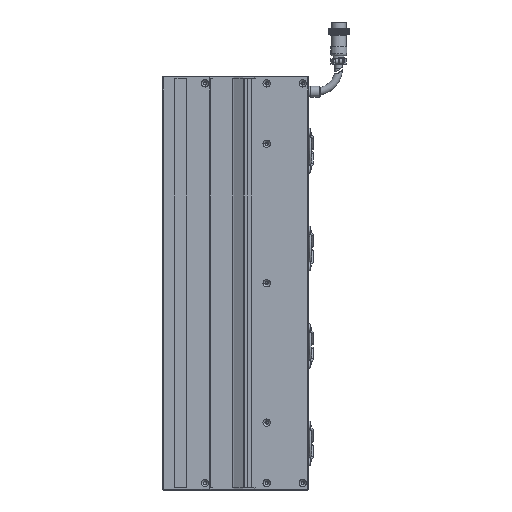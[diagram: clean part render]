
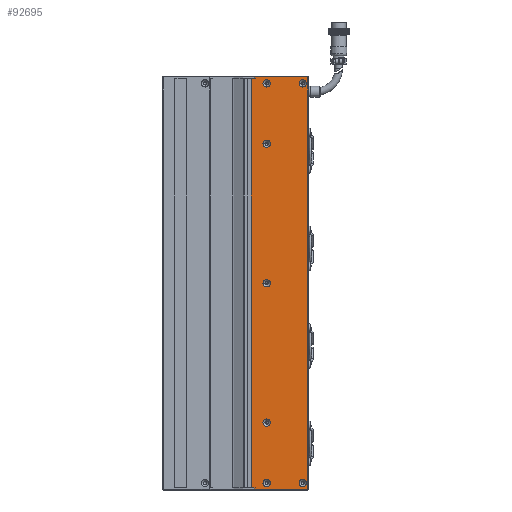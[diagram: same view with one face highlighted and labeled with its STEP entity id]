
A CAD part, left-side view. The second image highlights one B-rep face of the part: STEP entity #92695.
In plain terms, the highlighted planar face has unit normal (-1, 0, 0).
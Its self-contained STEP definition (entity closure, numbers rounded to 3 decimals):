
#2255 = CARTESIAN_POINT ( 'NONE',  ( -24.998, -36.5, -172. ) ) ;
#2270 = DIRECTION ( 'NONE',  ( 0., 0., 1. ) ) ;
#3178 = LINE ( 'NONE', #31155, #110988 ) ;
#6979 = CARTESIAN_POINT ( 'NONE',  ( -24.998, -36.5, -168.85 ) ) ;
#9164 = CARTESIAN_POINT ( 'NONE',  ( -24.998, -26.5, 177.5 ) ) ;
#9571 = CARTESIAN_POINT ( 'NONE',  ( -24.998, -36.5, 0. ) ) ;
#9720 = EDGE_CURVE ( 'NONE', #17073, #17073, #95151, .T. ) ;
#10095 = CARTESIAN_POINT ( 'NONE',  ( -24.998, -36.5, 3.15 ) ) ;
#11625 = PLANE ( 'NONE',  #58202 ) ;
#12060 = CIRCLE ( 'NONE', #110497, 3.15 ) ;
#13359 = EDGE_CURVE ( 'NONE', #88653, #72051, #96346, .T. ) ;
#14248 = EDGE_LOOP ( 'NONE', ( #41286, #32328, #114401, #80128, #85140, #24012, #80623, #60137 ) ) ;
#15383 = CARTESIAN_POINT ( 'NONE',  ( -24.998, -72., 177.5 ) ) ;
#15790 = ORIENTED_EDGE ( 'NONE', *, *, #9720, .F. ) ;
#15848 = DIRECTION ( 'NONE',  ( 0., 0., 1. ) ) ;
#16031 = CARTESIAN_POINT ( 'NONE',  ( -24.998, -26.5, 169. ) ) ;
#16943 = FACE_OUTER_BOUND ( 'NONE', #14248, .T. ) ;
#17073 = VERTEX_POINT ( 'NONE', #56875 ) ;
#17314 = EDGE_CURVE ( 'NONE', #126866, #22273, #3178, .T. ) ;
#18324 = LINE ( 'NONE', #35650, #100847 ) ;
#19161 = EDGE_CURVE ( 'NONE', #97834, #97834, #125990, .T. ) ;
#19935 = LINE ( 'NONE', #26680, #30080 ) ;
#20808 = CARTESIAN_POINT ( 'NONE',  ( -24.998, -23.25, -176. ) ) ;
#21850 = EDGE_CURVE ( 'NONE', #126542, #126542, #96888, .T. ) ;
#22273 = VERTEX_POINT ( 'NONE', #9164 ) ;
#24012 = ORIENTED_EDGE ( 'NONE', *, *, #52731, .T. ) ;
#26680 = CARTESIAN_POINT ( 'NONE',  ( -24.998, -26.5, -169. ) ) ;
#26749 = DIRECTION ( 'NONE',  ( 0., -1., 0. ) ) ;
#28078 = CARTESIAN_POINT ( 'NONE',  ( -24.998, -36.5, 120. ) ) ;
#28684 = FACE_BOUND ( 'NONE', #46493, .T. ) ;
#30052 = CARTESIAN_POINT ( 'NONE',  ( -24.998, -72., -177.5 ) ) ;
#30080 = VECTOR ( 'NONE', #79816, 1000. ) ;
#30449 = CIRCLE ( 'NONE', #119600, 3.15 ) ;
#30475 = FACE_BOUND ( 'NONE', #39721, .T. ) ;
#30781 = CARTESIAN_POINT ( 'NONE',  ( -24.998, -72.5, -176. ) ) ;
#31155 = CARTESIAN_POINT ( 'NONE',  ( -24.998, -72.5, 177.5 ) ) ;
#32328 = ORIENTED_EDGE ( 'NONE', *, *, #59081, .F. ) ;
#33876 = CARTESIAN_POINT ( 'NONE',  ( -24.998, -36.5, 175.15 ) ) ;
#35650 = CARTESIAN_POINT ( 'NONE',  ( -24.998, -72.5, -177.5 ) ) ;
#39645 = VERTEX_POINT ( 'NONE', #30052 ) ;
#39721 = EDGE_LOOP ( 'NONE', ( #133498 ) ) ;
#41286 = ORIENTED_EDGE ( 'NONE', *, *, #56429, .T. ) ;
#41568 = CARTESIAN_POINT ( 'NONE',  ( -24.998, -23.25, 176. ) ) ;
#42204 = FACE_BOUND ( 'NONE', #65281, .T. ) ;
#43421 = ORIENTED_EDGE ( 'NONE', *, *, #69273, .F. ) ;
#43643 = DIRECTION ( 'NONE',  ( -1., 0., 0. ) ) ;
#46493 = EDGE_LOOP ( 'NONE', ( #128591 ) ) ;
#47100 = EDGE_LOOP ( 'NONE', ( #95795 ) ) ;
#47382 = DIRECTION ( 'NONE',  ( -1., 0., 0. ) ) ;
#47985 = EDGE_CURVE ( 'NONE', #39645, #126866, #84536, .T. ) ;
#50084 = DIRECTION ( 'NONE',  ( -1., 0., 0. ) ) ;
#51666 = CARTESIAN_POINT ( 'NONE',  ( -24.998, -36.5, 172. ) ) ;
#52531 = VECTOR ( 'NONE', #117486, 1000. ) ;
#52731 = EDGE_CURVE ( 'NONE', #22273, #118282, #121826, .T. ) ;
#53897 = LINE ( 'NONE', #30781, #75773 ) ;
#54823 = VERTEX_POINT ( 'NONE', #102887 ) ;
#54872 = DIRECTION ( 'NONE',  ( 1., 0., 0. ) ) ;
#56020 = CARTESIAN_POINT ( 'NONE',  ( -24.998, -26.5, -177.5 ) ) ;
#56350 = DIRECTION ( 'NONE',  ( 0., 1., 0. ) ) ;
#56429 = EDGE_CURVE ( 'NONE', #88653, #125574, #53897, .T. ) ;
#56875 = CARTESIAN_POINT ( 'NONE',  ( -24.998, -36.5, 123.15 ) ) ;
#58202 = AXIS2_PLACEMENT_3D ( 'NONE', #76049, #54872, #130282 ) ;
#58715 = CARTESIAN_POINT ( 'NONE',  ( -24.998, -72.5, 176. ) ) ;
#59081 = EDGE_CURVE ( 'NONE', #65321, #125574, #19935, .T. ) ;
#60137 = ORIENTED_EDGE ( 'NONE', *, *, #13359, .F. ) ;
#60432 = EDGE_LOOP ( 'NONE', ( #43421 ) ) ;
#63610 = DIRECTION ( 'NONE',  ( -1., 0., 0. ) ) ;
#65281 = EDGE_LOOP ( 'NONE', ( #15790 ) ) ;
#65321 = VERTEX_POINT ( 'NONE', #56020 ) ;
#67580 = CARTESIAN_POINT ( 'NONE',  ( -24.998, -26.5, -176. ) ) ;
#69273 = EDGE_CURVE ( 'NONE', #104193, #104193, #128317, .T. ) ;
#71065 = AXIS2_PLACEMENT_3D ( 'NONE', #9571, #63610, #138081 ) ;
#72051 = VERTEX_POINT ( 'NONE', #41568 ) ;
#72199 = DIRECTION ( 'NONE',  ( 0., -1., 0. ) ) ;
#73308 = DIRECTION ( 'NONE',  ( 0., 0., 1. ) ) ;
#74268 = EDGE_LOOP ( 'NONE', ( #89770 ) ) ;
#75773 = VECTOR ( 'NONE', #72199, 1000. ) ;
#75791 = FACE_BOUND ( 'NONE', #82911, .T. ) ;
#76049 = CARTESIAN_POINT ( 'NONE',  ( -24.998, -72.5, 176. ) ) ;
#77959 = CARTESIAN_POINT ( 'NONE',  ( -24.998, -23.25, -176. ) ) ;
#77996 = ORIENTED_EDGE ( 'NONE', *, *, #105595, .F. ) ;
#78950 = EDGE_CURVE ( 'NONE', #127455, #127455, #104512, .T. ) ;
#79816 = DIRECTION ( 'NONE',  ( 0., 0., 1. ) ) ;
#80128 = ORIENTED_EDGE ( 'NONE', *, *, #47985, .T. ) ;
#80623 = ORIENTED_EDGE ( 'NONE', *, *, #98708, .F. ) ;
#80722 = CARTESIAN_POINT ( 'NONE',  ( -24.998, -67.5, -168.85 ) ) ;
#81631 = CARTESIAN_POINT ( 'NONE',  ( -24.998, -67.5, -172. ) ) ;
#82832 = EDGE_CURVE ( 'NONE', #39645, #65321, #18324, .T. ) ;
#82911 = EDGE_LOOP ( 'NONE', ( #77996 ) ) ;
#83304 = AXIS2_PLACEMENT_3D ( 'NONE', #28078, #103390, #124629 ) ;
#84536 = LINE ( 'NONE', #96673, #52531 ) ;
#85140 = ORIENTED_EDGE ( 'NONE', *, *, #17314, .T. ) ;
#88503 = CARTESIAN_POINT ( 'NONE',  ( -24.998, -26.5, 176. ) ) ;
#88653 = VERTEX_POINT ( 'NONE', #20808 ) ;
#88694 = AXIS2_PLACEMENT_3D ( 'NONE', #51666, #137845, #73308 ) ;
#89770 = ORIENTED_EDGE ( 'NONE', *, *, #21850, .F. ) ;
#92695 = ADVANCED_FACE ( 'NONE', ( #30475, #134904, #92847, #28684, #75791, #119650, #42204, #16943 ), #11625, .F. ) ;
#92847 = FACE_BOUND ( 'NONE', #74268, .T. ) ;
#93414 = DIRECTION ( 'NONE',  ( 0., 0., 1. ) ) ;
#94617 = VECTOR ( 'NONE', #2270, 1000. ) ;
#95151 = CIRCLE ( 'NONE', #83304, 3.15 ) ;
#95795 = ORIENTED_EDGE ( 'NONE', *, *, #78950, .F. ) ;
#96346 = LINE ( 'NONE', #77959, #94617 ) ;
#96348 = CARTESIAN_POINT ( 'NONE',  ( -24.998, -67.5, 172. ) ) ;
#96673 = CARTESIAN_POINT ( 'NONE',  ( -24.998, -72., 176. ) ) ;
#96888 = CIRCLE ( 'NONE', #88694, 3.15 ) ;
#97834 = VERTEX_POINT ( 'NONE', #98370 ) ;
#98370 = CARTESIAN_POINT ( 'NONE',  ( -24.998, -67.5, 175.15 ) ) ;
#98708 = EDGE_CURVE ( 'NONE', #72051, #118282, #114059, .T. ) ;
#100632 = VECTOR ( 'NONE', #26749, 1000. ) ;
#100847 = VECTOR ( 'NONE', #56350, 1000. ) ;
#102887 = CARTESIAN_POINT ( 'NONE',  ( -24.998, -36.5, -116.85 ) ) ;
#103390 = DIRECTION ( 'NONE',  ( -1., 0., 0. ) ) ;
#104193 = VERTEX_POINT ( 'NONE', #6979 ) ;
#104512 = CIRCLE ( 'NONE', #71065, 3.15 ) ;
#105595 = EDGE_CURVE ( 'NONE', #54823, #54823, #12060, .T. ) ;
#106448 = DIRECTION ( 'NONE',  ( 0., 1., 0. ) ) ;
#107000 = EDGE_CURVE ( 'NONE', #112125, #112125, #30449, .T. ) ;
#107227 = DIRECTION ( 'NONE',  ( 0., 0., 1. ) ) ;
#110497 = AXIS2_PLACEMENT_3D ( 'NONE', #139760, #138371, #127568 ) ;
#110988 = VECTOR ( 'NONE', #106448, 1000. ) ;
#112023 = AXIS2_PLACEMENT_3D ( 'NONE', #96348, #43643, #107227 ) ;
#112125 = VERTEX_POINT ( 'NONE', #80722 ) ;
#112992 = DIRECTION ( 'NONE',  ( 0., 0., -1. ) ) ;
#114059 = LINE ( 'NONE', #58715, #100632 ) ;
#114401 = ORIENTED_EDGE ( 'NONE', *, *, #82832, .F. ) ;
#116448 = AXIS2_PLACEMENT_3D ( 'NONE', #2255, #47382, #15848 ) ;
#117486 = DIRECTION ( 'NONE',  ( 0., 0., 1. ) ) ;
#118282 = VERTEX_POINT ( 'NONE', #88503 ) ;
#119600 = AXIS2_PLACEMENT_3D ( 'NONE', #81631, #50084, #93414 ) ;
#119650 = FACE_BOUND ( 'NONE', #47100, .T. ) ;
#121826 = LINE ( 'NONE', #16031, #131982 ) ;
#124629 = DIRECTION ( 'NONE',  ( 0., 0., 1. ) ) ;
#125574 = VERTEX_POINT ( 'NONE', #67580 ) ;
#125990 = CIRCLE ( 'NONE', #112023, 3.15 ) ;
#126542 = VERTEX_POINT ( 'NONE', #33876 ) ;
#126866 = VERTEX_POINT ( 'NONE', #15383 ) ;
#127455 = VERTEX_POINT ( 'NONE', #10095 ) ;
#127568 = DIRECTION ( 'NONE',  ( 0., 0., 1. ) ) ;
#128317 = CIRCLE ( 'NONE', #116448, 3.15 ) ;
#128591 = ORIENTED_EDGE ( 'NONE', *, *, #19161, .F. ) ;
#130282 = DIRECTION ( 'NONE',  ( 0., 0., -1. ) ) ;
#131982 = VECTOR ( 'NONE', #112992, 1000. ) ;
#133498 = ORIENTED_EDGE ( 'NONE', *, *, #107000, .F. ) ;
#134904 = FACE_BOUND ( 'NONE', #60432, .T. ) ;
#137845 = DIRECTION ( 'NONE',  ( -1., 0., 0. ) ) ;
#138081 = DIRECTION ( 'NONE',  ( 0., 0., 1. ) ) ;
#138371 = DIRECTION ( 'NONE',  ( -1., 0., 0. ) ) ;
#139760 = CARTESIAN_POINT ( 'NONE',  ( -24.998, -36.5, -120. ) ) ;
